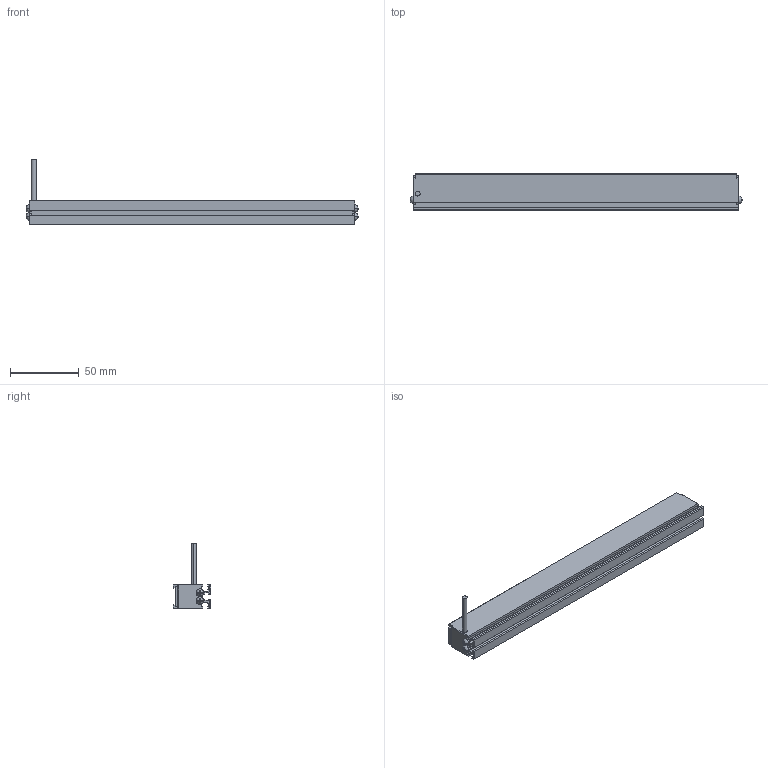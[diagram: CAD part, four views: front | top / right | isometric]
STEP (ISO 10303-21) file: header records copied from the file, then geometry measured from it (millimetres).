
FILE_DESCRIPTION((''),'2;1');
FILE_NAME('MV-LLDS-237-18_ASM','2020-12-29T',('Administrator'),(''),'PRO/ENGINEER BY PARAMETRIC TECHNOLOGY CORPORATION, 2010100','PRO/ENGINEER BY PARAMETRIC TECHNOLOGY CORPORATION, 2010100','');
FILE_SCHEMA(('CONFIG_CONTROL_DESIGN'));
Length unit declared in the file: millimetre
Products named in the file (3): BL_2_-_4_; M3-5_3; MV-LLDS-237-18_ASM
Assembly tree (5 placements, depth 2):
  MV-LLDS-237-18_ASM
    BL_2_-_4_
    M3-5_3  x4
Bounding box: 241.68 x 27 x 48 mm (x, y, z)
Volume: 94474.5 mm3; surface area: 43192.2 mm2
Topology: 5 solids, 13 shells, 281 faces, 736 edges, 472 vertices
Faces by surface type: plane 167, cylinder 66, cone 16, bspline 16, torus 8, sphere 8
Entity records: 5993 total; most frequent: CARTESIAN_POINT 1305, DIRECTION 952, ORIENTED_EDGE 942, EDGE_CURVE 481, VECTOR 340, LINE 340, VERTEX_POINT 313, AXIS2_PLACEMENT_3D 306
